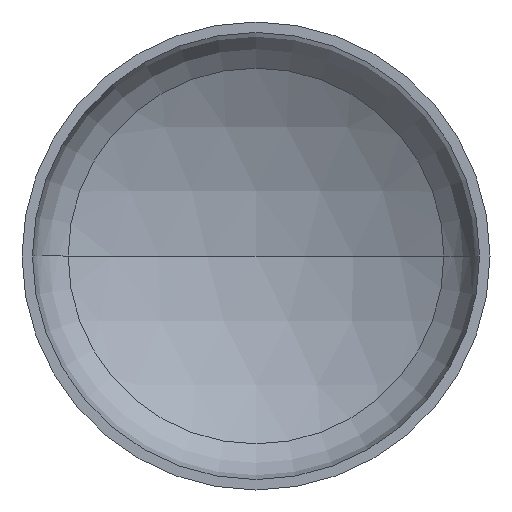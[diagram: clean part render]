
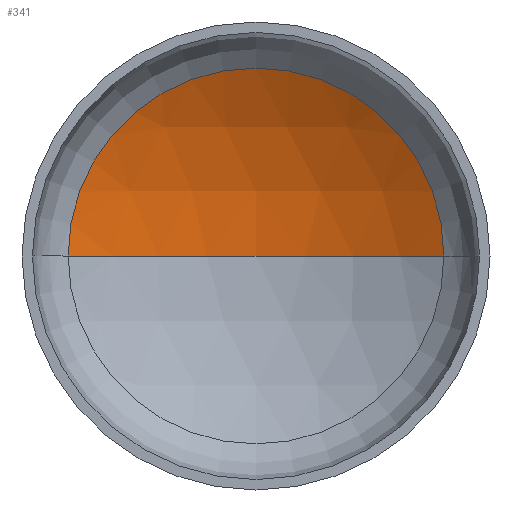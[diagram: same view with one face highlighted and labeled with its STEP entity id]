
A CAD part, front view. The second image highlights one B-rep face of the part: STEP entity #341.
In plain terms, the highlighted spherical face has radius 1360 mm.
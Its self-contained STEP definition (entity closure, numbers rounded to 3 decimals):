
#2 = AXIS2_PLACEMENT_3D ( 'NONE', #374, #371, #262 ) ;
#3 = AXIS2_PLACEMENT_3D ( 'NONE', #345, #186, #375 ) ;
#7 = AXIS2_PLACEMENT_3D ( 'NONE', #397, #241, #39 ) ;
#16 = DIRECTION ( 'NONE',  ( 1., 0., 0. ) ) ;
#24 = ORIENTED_EDGE ( 'NONE', *, *, #339, .T. ) ;
#32 = AXIS2_PLACEMENT_3D ( 'NONE', #78, #80, #16 ) ;
#39 = DIRECTION ( 'NONE',  ( -1., 0., 0. ) ) ;
#50 = CIRCLE ( 'NONE', #3, 1360. ) ;
#74 = CIRCLE ( 'NONE', #7, 1360. ) ;
#78 = CARTESIAN_POINT ( 'NONE',  ( 0., 344.893, 0. ) ) ;
#80 = DIRECTION ( 'NONE',  ( 0., -1., 0. ) ) ;
#88 = ORIENTED_EDGE ( 'NONE', *, *, #350, .F. ) ;
#92 = EDGE_CURVE ( 'NONE', #389, #205, #265, .T. ) ;
#101 = EDGE_LOOP ( 'NONE', ( #88, #24, #215 ) ) ;
#146 = SPHERICAL_SURFACE ( 'NONE', #2, 1360. ) ;
#156 = CARTESIAN_POINT ( 'NONE',  ( 0., 528.53, 0. ) ) ;
#159 = VERTEX_POINT ( 'NONE', #156 ) ;
#186 = DIRECTION ( 'NONE',  ( 0., 0., 1. ) ) ;
#205 = VERTEX_POINT ( 'NONE', #207 ) ;
#207 = CARTESIAN_POINT ( 'NONE',  ( -682.473, 344.893, 0. ) ) ;
#215 = ORIENTED_EDGE ( 'NONE', *, *, #92, .T. ) ;
#241 = DIRECTION ( 'NONE',  ( 0., 0., -1. ) ) ;
#262 = DIRECTION ( 'NONE',  ( -1., 0., 0. ) ) ;
#265 = CIRCLE ( 'NONE', #32, 682.473 ) ;
#339 = EDGE_CURVE ( 'NONE', #159, #389, #74, .T. ) ;
#341 = ADVANCED_FACE ( 'NONE', ( #365 ), #146, .F. ) ;
#345 = CARTESIAN_POINT ( 'NONE',  ( 0., -831.47, 0. ) ) ;
#350 = EDGE_CURVE ( 'NONE', #159, #205, #50, .T. ) ;
#365 = FACE_OUTER_BOUND ( 'NONE', #101, .T. ) ;
#371 = DIRECTION ( 'NONE',  ( 0., 0., -1. ) ) ;
#374 = CARTESIAN_POINT ( 'NONE',  ( 0., -831.47, 0. ) ) ;
#375 = DIRECTION ( 'NONE',  ( 1., 0., 0. ) ) ;
#376 = CARTESIAN_POINT ( 'NONE',  ( 682.473, 344.893, 0. ) ) ;
#389 = VERTEX_POINT ( 'NONE', #376 ) ;
#397 = CARTESIAN_POINT ( 'NONE',  ( 0., -831.47, 0. ) ) ;
